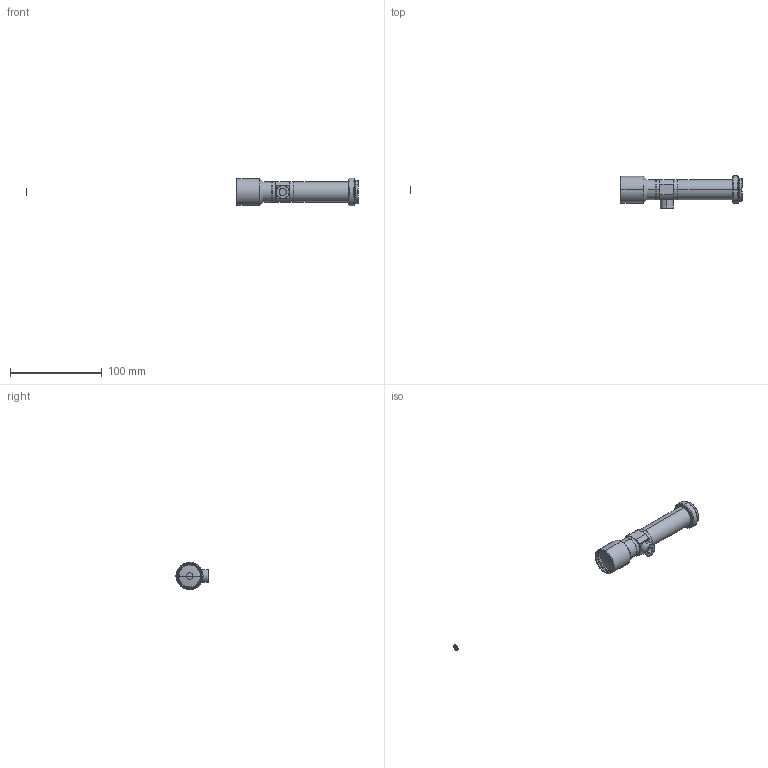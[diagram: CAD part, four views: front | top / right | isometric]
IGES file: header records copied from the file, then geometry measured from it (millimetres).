
Start section: SolidWorks IGES file using analytic representation for surfaces
Global section: file name: \\192.168.200.11\Development\02 テレセントリックレンズ\02 VS-TCH Series\100-110mm\020 VS-TCH2-110&CO\3D\作成中\VS-TCH2-110CO.IGS,15HSolidWorks; native system: 2014; preprocessor: SolidWorks 2014; author: miura_vst; date: 141010.161610; units: millimetre
Bounding box: 361.57 x 35 x 30 mm (x, y, z)
Surface area: 17022.3 mm2 (no closed solid volume)
Topology: 0 solids, 0 shells, 132 faces, 1402 edges, 1400 vertices
Faces by surface type: revolution 102, bspline 30
